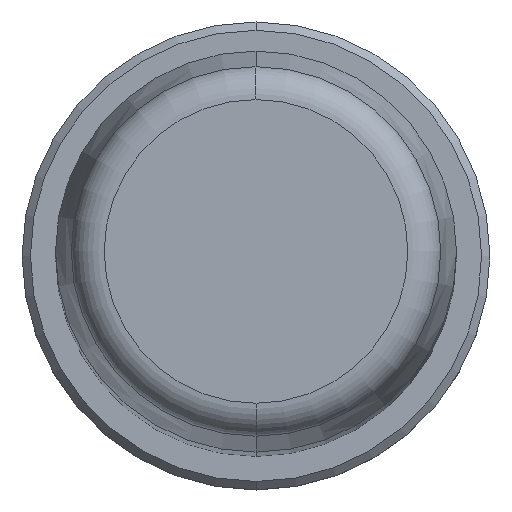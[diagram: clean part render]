
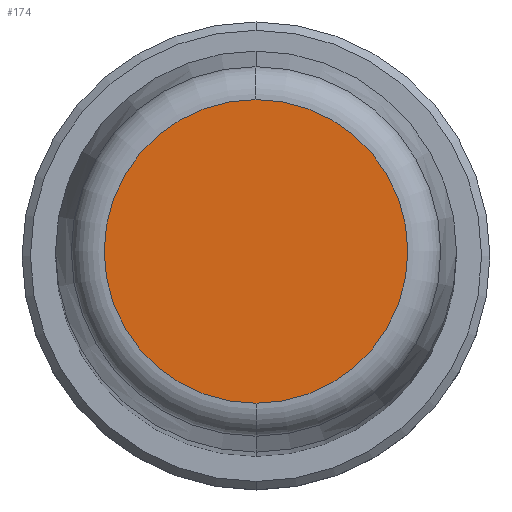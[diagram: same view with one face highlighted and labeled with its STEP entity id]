
A CAD part, top view. The second image highlights one B-rep face of the part: STEP entity #174.
In plain terms, the highlighted planar face has unit normal (0, 0, 1).
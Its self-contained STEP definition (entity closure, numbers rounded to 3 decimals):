
#1=CARTESIAN_POINT('',(0.,0.,160.));
#2=DIRECTION('',(0.,0.,-1.));
#3=DIRECTION('',(0.,-1.,0.));
#4=AXIS2_PLACEMENT_3D('',#1,#2,#3);
#6=CARTESIAN_POINT('',(0.,0.,160.));
#7=DIRECTION('',(0.,0.,-1.));
#8=DIRECTION('',(0.,1.,0.));
#9=AXIS2_PLACEMENT_3D('',#6,#7,#8);
#159=CARTESIAN_POINT('',(0.,-9.088,160.));
#160=CARTESIAN_POINT('',(0.,9.088,160.));
#161=VERTEX_POINT('',#159);
#162=VERTEX_POINT('',#160);
#163=CARTESIAN_POINT('',(0.,0.,160.));
#164=DIRECTION('',(0.,0.,1.));
#165=DIRECTION('',(0.,-1.,0.));
#166=AXIS2_PLACEMENT_3D('',#163,#164,#165);
#167=PLANE('',#166);
#169=ORIENTED_EDGE('',*,*,#168,.T.);
#171=ORIENTED_EDGE('',*,*,#170,.T.);
#172=EDGE_LOOP('',(#169,#171));
#173=FACE_OUTER_BOUND('',#172,.F.);
#174=ADVANCED_FACE('',(#173),#167,.T.);
#5=CIRCLE('',#4,9.088);
#10=CIRCLE('',#9,9.088);
#168=EDGE_CURVE('',#161,#162,#5,.T.);
#170=EDGE_CURVE('',#162,#161,#10,.T.);
